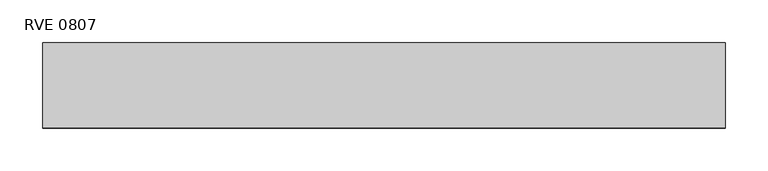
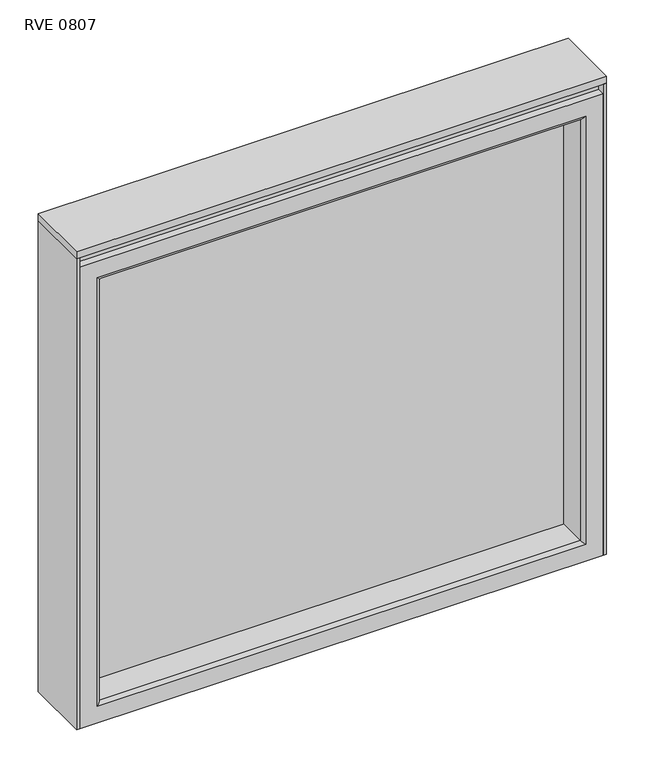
"""IFC4 building model written with IfcOpenShell, lengths in millimetres: furniture geometry, Mobiliário_MobiliáriodeEscritório_LinhaReasons_PainelEmpilhável762mm-Vidro_Marelli : RVE 0807."""

from ifc_helpers import new_model, si_unit, frame, origin, origin_with_axes, place, context, project, spatial, polyline, ellipse_curve, outline, extrude, source, transform, mapped, element, save
from ifc_brep_helpers import plane_surface, cylinder_surface, advanced_brep


def rve_0807_c5e54516(model_context):
    return source(origin(), model_context, "Body", "SolidModel", [
        extrude(outline(polyline([(795.0, 100.0), (800.0, 100.0), (800.0, 0.0), (795.0, 0.0), (795.0, 100.0)])), origin_with_axes(), (0.0, 0.0, 1.0), 751.0),
        extrude(outline(polyline([(800.0, 100.0), (800.0, 0.0), (0.0, 0.0), (0.0, 100.0), (800.0, 100.0)])), frame((0.0, 0.0, 751.0), z_axis=(0.0, 0.0, 1.0), x_axis=(1.0, 0.0, 0.0)), (0.0, 0.0, 1.0), 11.0),
        extrude(outline(polyline([(0.0, 100.0), (5.0, 100.0), (5.0, 0.0), (0.0, 0.0), (0.0, 100.0)])), origin_with_axes(), (0.0, 0.0, 1.0), 751.0),
        advanced_brep(
        [(763.5, 5.0, 704.5), (763.5, 95.0, 704.5), (763.5, 95.0, 31.5), (763.5, 5.0, 31.5), (795.0, 100.0, 736.0), (795.0, 0.0, 736.0), (795.0, 0.0, 0.0), (795.0, 100.0, 0.0), (36.5, 95.0, 31.5), (36.5, 5.0, 31.5), (5.0, 0.0, 0.0), (5.0, 100.0, 0.0), (36.5, 95.0, 704.5), (36.5, 5.0, 704.5), (5.0, 0.0, 736.0), (5.0, 100.0, 736.0), (768.5, 100.0, 709.5), (31.5, 100.0, 709.5), (31.5, 100.0, 26.5), (768.5, 100.0, 26.5), (768.5, 0.0, 26.5), (31.5, 0.0, 26.5), (31.5, 0.0, 709.5), (768.5, 0.0, 709.5)],
        [
            (0, 1),
            (1, 2),
            (2, 3),
            (3, 0),
            (4, 5),
            (5, 6),
            (6, 7),
            (7, 4),
            (2, 8),
            (8, 9),
            (9, 3),
            (6, 10),
            (10, 11),
            (11, 7),
            (8, 12),
            (12, 13),
            (13, 9),
            (10, 14),
            (14, 15),
            (15, 11),
            (15, 4),
            (16, 17),
            (17, 18),
            (18, 19),
            (19, 16),
            (12, 1),
            (0, 13),
            (5, 14),
            (20, 21),
            (21, 22),
            (22, 23),
            (23, 20),
            (1, 16, ellipse_curve(frame((768.5, 95.0, 709.5), z_axis=(0.7071067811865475, 0.0, -0.7071067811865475), x_axis=(0.7071067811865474, 0.0, 0.7071067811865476)), 7.0710678, 5.0)),
            (19, 2, ellipse_curve(frame((768.5, 95.0, 26.5), z_axis=(0.7071067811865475, 0.0, 0.7071067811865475), x_axis=(-0.7071067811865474, 0.0, 0.7071067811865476)), 7.0710678, 5.0)),
            (23, 0, ellipse_curve(frame((768.5, 5.0, 709.5), z_axis=(0.7071067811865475, 0.0, -0.7071067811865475), x_axis=(0.7071067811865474, 0.0, 0.7071067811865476)), 7.0710678, 5.0)),
            (3, 20, ellipse_curve(frame((768.5, 5.0, 26.5), z_axis=(0.7071067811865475, 0.0, 0.7071067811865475), x_axis=(-0.7071067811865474, 0.0, 0.7071067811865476)), 7.0710678, 5.0)),
            (18, 8, ellipse_curve(frame((31.5, 95.0, 26.5), z_axis=(0.7071067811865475, 0.0, -0.7071067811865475), x_axis=(0.7071067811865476, 0.0, 0.7071067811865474)), 7.0710678, 5.0)),
            (9, 21, ellipse_curve(frame((31.5, 5.0, 26.5), z_axis=(0.7071067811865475, 0.0, -0.7071067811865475), x_axis=(0.7071067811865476, 0.0, 0.7071067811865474)), 7.0710678, 5.0)),
            (17, 12, ellipse_curve(frame((31.5, 95.0, 709.5), z_axis=(-0.7071067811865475, 0.0, -0.7071067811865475), x_axis=(0.7071067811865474, 0.0, -0.7071067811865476)), 7.0710678, 5.0)),
            (13, 22, ellipse_curve(frame((31.5, 5.0, 709.5), z_axis=(-0.7071067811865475, 0.0, -0.7071067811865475), x_axis=(0.7071067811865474, 0.0, -0.7071067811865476)), 7.0710678, 5.0)),
        ],
        [
            plane_surface(frame((763.5, 95.0, 704.5), z_axis=(-1.0, 0.0, 0.0), x_axis=(0.0, 0.0, -1.0))),
            plane_surface(frame((795.0, 0.0, 736.0), z_axis=(1.0, 0.0, 0.0), x_axis=(0.0, 0.0, -1.0))),
            plane_surface(frame((763.5, 95.0, 31.5), z_axis=(0.0, 0.0, 1.0), x_axis=(-1.0, 0.0, 0.0))),
            plane_surface(frame((795.0, 0.0, 0.0), z_axis=(0.0, 0.0, -1.0), x_axis=(-1.0, 0.0, 0.0))),
            plane_surface(frame((36.5, 95.0, 31.5), z_axis=(1.0, 0.0, 0.0), x_axis=(0.0, 0.0, 1.0))),
            plane_surface(frame((5.0, 0.0, 0.0), z_axis=(-1.0, 0.0, 0.0), x_axis=(0.0, 0.0, 1.0))),
            plane_surface(frame((5.0, 100.0, 736.0), z_axis=(0.0, 1.0, 0.0), x_axis=(1.0, 0.0, 0.0))),
            plane_surface(frame((36.5, 95.0, 704.5), z_axis=(0.0, 0.0, -1.0), x_axis=(1.0, 0.0, 0.0))),
            plane_surface(frame((31.5, 0.0, 709.5), z_axis=(0.0, -1.0, 0.0), x_axis=(1.0, 0.0, 0.0))),
            plane_surface(frame((5.0, 0.0, 736.0), z_axis=(0.0, 0.0, 1.0), x_axis=(1.0, 0.0, 0.0))),
            cylinder_surface(frame((768.5, 95.0, 736.0), z_axis=(0.0, 0.0, 1.0), x_axis=(1.0, 0.0, 0.0)), 5.0),
            cylinder_surface(frame((768.5, 5.0, 736.0), z_axis=(0.0, 0.0, 1.0), x_axis=(1.0, 0.0, 0.0)), 5.0),
            cylinder_surface(frame((795.0, 95.0, 26.5), z_axis=(1.0, 0.0, 0.0), x_axis=(0.0, 0.0, -1.0)), 5.0),
            cylinder_surface(frame((795.0, 5.0, 26.5), z_axis=(1.0, 0.0, 0.0), x_axis=(0.0, 0.0, -1.0)), 5.0),
            cylinder_surface(frame((31.5, 95.0, 0.0), z_axis=(0.0, 0.0, -1.0), x_axis=(-1.0, 0.0, 0.0)), 5.0),
            cylinder_surface(frame((31.5, 5.0, 0.0), z_axis=(0.0, 0.0, -1.0), x_axis=(-1.0, 0.0, 0.0)), 5.0),
            cylinder_surface(frame((5.0, 95.0, 709.5), z_axis=(-1.0, 0.0, 0.0), x_axis=(0.0, 0.0, 1.0)), 5.0),
            cylinder_surface(frame((5.0, 5.0, 709.5), z_axis=(-1.0, 0.0, 0.0), x_axis=(0.0, 0.0, 1.0)), 5.0),
        ],
        [
            (0, [[1, 2, 3, 4]]),
            (1, [[5, 6, 7, 8]]),
            (2, [[-3, 9, 10, 11]]),
            (3, [[-7, 12, 13, 14]]),
            (4, [[-10, 15, 16, 17]]),
            (5, [[-13, 18, 19, 20]]),
            (6, [[-14, -20, 21, -8], [22, 23, 24, 25]]),
            (7, [[-16, 26, -1, 27]]),
            (8, [[28, -18, -12, -6], [29, 30, 31, 32]]),
            (9, [[-19, -28, -5, -21]]),
            (10, [[33, -25, 34, -2]]),
            (11, [[35, -4, 36, -32]]),
            (12, [[-34, -24, 37, -9]]),
            (13, [[-36, -11, 38, -29]]),
            (14, [[-37, -23, 39, -15]]),
            (15, [[-38, -17, 40, -30]]),
            (16, [[-39, -22, -33, -26]]),
            (17, [[-40, -27, -35, -31]]),
        ],
    ),
        extrude(outline(polyline([(5.0, 11.0), (5.0, 89.0), (795.0, 89.0), (795.0, 11.0), (5.0, 11.0)])), frame((0.0, 0.0, 736.0), z_axis=(0.0, 0.0, 1.0), x_axis=(1.0, 0.0, 0.0)), (0.0, 0.0, 1.0), 15.0),
        extrude(outline(polyline([(763.5, 52.0), (763.5, 48.0), (36.5677845, 48.0), (36.5677845, 52.0), (763.5, 52.0)])), frame((0.0, 0.0, 31.5), z_axis=(0.0, 0.0, 1.0), x_axis=(1.0, 0.0, 0.0)), (0.0, 0.0, 1.0), 673.0),
    ])


if __name__ == "__main__":
    model = new_model("IFC4")
    model_context = context("Model", 3, world=origin())
    ifc_project = project(units=[si_unit("LENGTHUNIT", "METRE", prefix="MILLI")], contexts=[model_context])
    site = spatial("IfcSite", under=ifc_project)
    building = spatial("IfcBuilding", under=site)
    placement = place(None, origin())
    rve_0807_shape = rve_0807_c5e54516(model_context)
    element("IfcFurniture", 1, ObjectType="Mobiliário_MobiliáriodeEscritório_LinhaReasons_PainelEmpilhável762mm-Vidro_Marelli : RVE 0807", at=placement, inside=building, context=model_context, shape_type="MappedRepresentation", body=[
        mapped(rve_0807_shape, transform((0.0, 0.0, 0.0), x_axis=(1.0, 0.0, 0.0), y_axis=(0.0, 1.0, 0.0), z_axis=(0.0, 0.0, 1.0))),
    ])
    save(model, "model.ifc")
